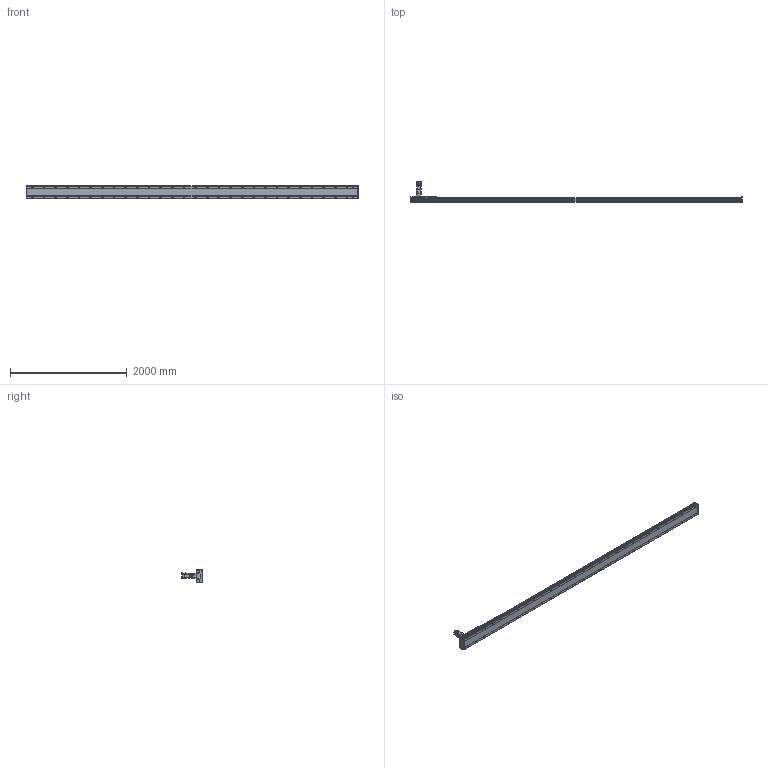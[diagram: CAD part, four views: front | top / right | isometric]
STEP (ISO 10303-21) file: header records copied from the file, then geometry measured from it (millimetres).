
FILE_DESCRIPTION(/* description */ ('STEP AP214'),/* implementation_level */ '2;1');
FILE_NAME(/* name */ 'SHS22A-L13-S5200-BC-T75-C1-N(0)',/* time_stamp */ '2022-06-15T02:29:20+02:00',/* author */ ('License CC BY-ND 4.0'),/* organization */ ('CADENAS'),/* preprocessor_version */ 'ST-DEVELOPER v18.102',/* originating_system */ 'PARTsolutions',/* authorisation */ ' ');
FILE_SCHEMA (('AUTOMOTIVE_DESIGN {1 0 10303 214 3 1 1}'));
Length unit declared in the file: millimetre
Products named in the file (7): SHS22A-L13-S5200-BC-T75-C1-N(0); PSC140-sensor; SHS22A-S5200_body2; T75-p1; SHS22A-S5200_body3; SHS22A-S5200_slider; SHS22A-L13-S5200-BC-T75-C1(0)_body
Assembly tree (13 placements, depth 2):
  SHS22A-L13-S5200-BC-T75-C1-N(0)
    PSC140-sensor  x3
    SHS22A-S5200_body2  x6
    T75-p1
    SHS22A-S5200_body3
    SHS22A-S5200_slider
    SHS22A-L13-S5200-BC-T75-C1(0)_body
Bounding box: 5694 x 350.8 x 238.4 mm (x, y, z)
Volume: 59852187.3 mm3; surface area: 6072805.6 mm2
Topology: 13 solids, 13 shells, 2049 faces, 5227 edges, 3418 vertices
Faces by surface type: plane 1396, cylinder 521, cone 123, torus 9
Full cylindrical faces by diameter (mm): 2.8 x3, 4.2 x2, 4.6 x3, 4.917 x4, 5 x4, 5.6 x24, 6 x31, 6.6 x24, 6.647 x8, 6.8 x9, 7.75 x6, 8 x3, 8.376 x58, 8.5 x58, 10 x4, 11 x4, 12 x24, 14 x58, 22 x1, 24.1 x1, 28 x1, 28.2 x1, 28.8 x1, 48.542 x1, 68 x1, 70 x1, 78 x1, 80 x2
Entity records: 35650 total; most frequent: CARTESIAN_POINT 6527, DIRECTION 6053, ORIENTED_EDGE 5304, EDGE_CURVE 2652, AXIS2_PLACEMENT_3D 2226, FACE_BOUND 1994, EDGE_LOOP 1993, VERTEX_POINT 1950
